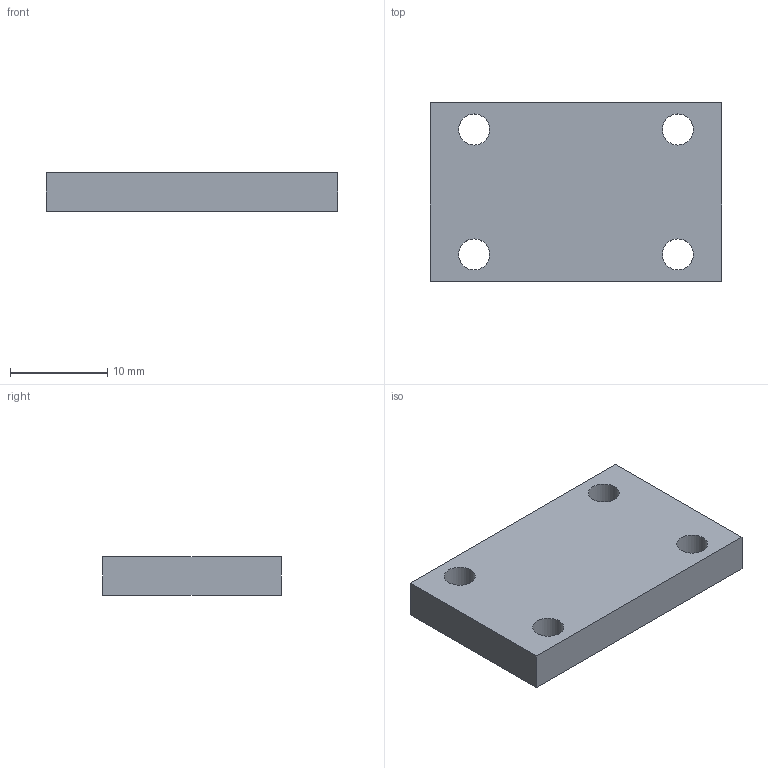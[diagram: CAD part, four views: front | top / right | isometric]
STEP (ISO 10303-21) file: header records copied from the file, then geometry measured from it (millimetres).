
FILE_DESCRIPTION(('Mechanical CAD reference from nasji.com'),'2;1');
FILE_NAME('NASJI.step','',(''),(''),'','NASJI distribution','');
FILE_SCHEMA(('AUTOMOTIVE_DESIGN { 1 0 10303 214 1 1 1 1 }'));
Length unit declared in the file: millimetre
Products named in the file (1): Open CASCADE STEP translator 7.8 117
Bounding box: 30 x 18.4 x 4 mm (x, y, z)
Volume: 2079.3 mm3; surface area: 1587.7 mm2
Topology: 1 solids, 1 shells, 10 faces, 24 edges, 16 vertices
Faces by surface type: plane 6, cylinder 4
Full cylindrical faces by diameter (mm): 3.2 x4
Entity records: 658 total; most frequent: CARTESIAN_POINT 147, DIRECTION 94, LINE 56, VECTOR 56, ORIENTED_EDGE 48, PCURVE 48, DEFINITIONAL_REPRESENTATION 48, EDGE_CURVE 24
